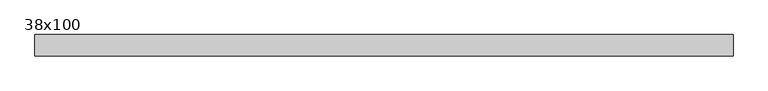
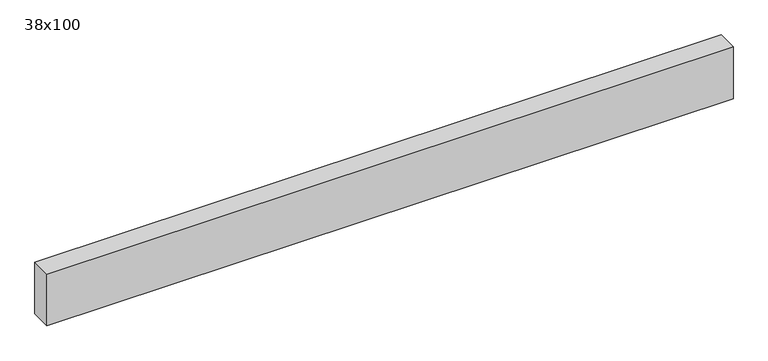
"""IFC4 building model written with IfcOpenShell, lengths in millimetres: beam geometry, Poutre - Bois de construction de dimensions courantes : 38x100."""

from ifc_helpers import new_model, si_unit, frame, origin, place, context, project, spatial, polyline, outline, extrude, source, transform, mapped, element, save


def beam_38x100_f62a432d(model_context):
    return source(origin(), model_context, "Body", "SweptSolid", [
        extrude(outline(polyline([(597.0, 19.05), (597.0, -19.05), (-658.0, -19.05), (-658.0, 19.05), (597.0, 19.05)])), frame((0.0, 0.0, -50.0), z_axis=(0.0, 0.0, 1.0), x_axis=(1.0, 0.0, 0.0)), (0.0, 0.0, 1.0), 100.0),
    ])


if __name__ == "__main__":
    model = new_model("IFC4")
    model_context = context("Model", 3, world=origin())
    ifc_project = project(units=[si_unit("LENGTHUNIT", "METRE", prefix="MILLI")], contexts=[model_context])
    site = spatial("IfcSite", under=ifc_project)
    building = spatial("IfcBuilding", under=site)
    placement = place(None, origin())
    beam_38x100_shape = beam_38x100_f62a432d(model_context)
    element("IfcBeam", 1, ObjectType="Poutre - Bois de construction de dimensions courantes : 38x100", at=placement, inside=building, context=model_context, shape_type="MappedRepresentation", body=[
        mapped(beam_38x100_shape, transform((0.0, 0.0, 0.0), x_axis=(1.0, 0.0, 0.0), y_axis=(0.0, 1.0, 0.0), z_axis=(0.0, 0.0, 1.0))),
    ])
    save(model, "model.ifc")
